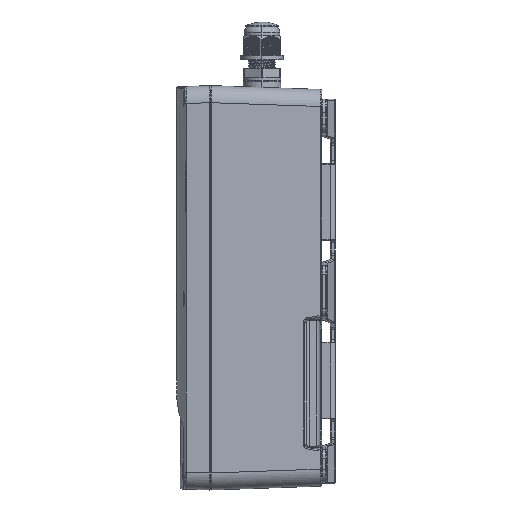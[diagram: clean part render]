
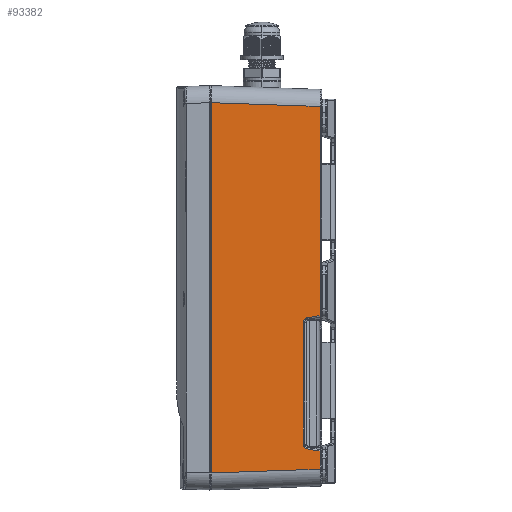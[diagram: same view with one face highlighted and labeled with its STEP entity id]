
A CAD part, left-side view. The second image highlights one B-rep face of the part: STEP entity #93382.
In plain terms, the highlighted planar face has unit normal (-0.999, -0.035, 0).
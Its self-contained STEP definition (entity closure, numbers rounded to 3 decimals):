
#604 = VECTOR ( 'NONE', #66510, 1000. ) ;
#1048 = CARTESIAN_POINT ( 'NONE',  ( -72.5, 0., 105. ) ) ;
#1252 = EDGE_CURVE ( 'NONE', #69270, #138455, #29311, .T. ) ;
#3514 = ORIENTED_EDGE ( 'NONE', *, *, #47024, .T. ) ;
#5276 = ORIENTED_EDGE ( 'NONE', *, *, #52300, .T. ) ;
#5970 = LINE ( 'NONE', #42767, #13464 ) ;
#6317 = CARTESIAN_POINT ( 'NONE',  ( -70.61, -54.125, -36.329 ) ) ;
#8270 = CARTESIAN_POINT ( 'NONE',  ( -70.605, -54.262, -33.103 ) ) ;
#8597 = CARTESIAN_POINT ( 'NONE',  ( -70.264, -64.035, -109.223 ) ) ;
#9302 = CARTESIAN_POINT ( 'NONE',  ( -70.609, -54.156, -33.608 ) ) ;
#10391 = DIRECTION ( 'NONE',  ( 0., 0., 1. ) ) ;
#12443 = CARTESIAN_POINT ( 'NONE',  ( -70.524, -56.574, -107.933 ) ) ;
#12539 = LINE ( 'NONE', #74035, #113401 ) ;
#13072 = EDGE_CURVE ( 'NONE', #138455, #62638, #151007, .T. ) ;
#13202 = ORIENTED_EDGE ( 'NONE', *, *, #1252, .T. ) ;
#13464 = VECTOR ( 'NONE', #126267, 1000. ) ;
#13525 = VECTOR ( 'NONE', #10391, 1000. ) ;
#14150 = DIRECTION ( 'NONE',  ( 0.034, -0.985, 0.17 ) ) ;
#16967 = VECTOR ( 'NONE', #52288, 1000. ) ;
#17762 = CARTESIAN_POINT ( 'NONE',  ( -72.482, -0.517, 94.988 ) ) ;
#19766 = CARTESIAN_POINT ( 'NONE',  ( -70.61, -54.125, -33.951 ) ) ;
#20254 = CARTESIAN_POINT ( 'NONE',  ( -70.599, -54.439, -32.619 ) ) ;
#22292 = ORIENTED_EDGE ( 'NONE', *, *, #78354, .T. ) ;
#24524 = VERTEX_POINT ( 'NONE', #85790 ) ;
#25892 = CARTESIAN_POINT ( 'NONE',  ( -70.605, -54.262, -105.897 ) ) ;
#26380 = CARTESIAN_POINT ( 'NONE',  ( -70.607, -54.217, -105.73 ) ) ;
#28060 = EDGE_CURVE ( 'NONE', #52379, #24524, #5970, .T. ) ;
#29311 = B_SPLINE_CURVE_WITH_KNOTS ( 'NONE', 3,
 ( #81757, #93809, #34765, #118293, #154316, #82795, #94844, #25892, #26380, #84848, #37812, #72841 ),
 .UNSPECIFIED., .F., .F.,
 ( 4, 2, 2, 2, 2, 4 ),
 ( 0., 0.001, 0.002, 0.003, 0.004, 0.004 ),
 .UNSPECIFIED. ) ;
#34765 = CARTESIAN_POINT ( 'NONE',  ( -70.547, -55.915, -107.759 ) ) ;
#35640 = VERTEX_POINT ( 'NONE', #8597 ) ;
#37726 = LINE ( 'NONE', #65990, #604 ) ;
#37812 = CARTESIAN_POINT ( 'NONE',  ( -70.609, -54.139, -105.218 ) ) ;
#42767 = CARTESIAN_POINT ( 'NONE',  ( -72.224, -7.908, -121.73 ) ) ;
#44704 = CARTESIAN_POINT ( 'NONE',  ( -70.547, -55.915, -31.241 ) ) ;
#47024 = EDGE_CURVE ( 'NONE', #24524, #35640, #12539, .T. ) ;
#52288 = DIRECTION ( 'NONE',  ( -0.035, 0.999, 0.035 ) ) ;
#52300 = EDGE_CURVE ( 'NONE', #99308, #56727, #135097, .T. ) ;
#52379 = VERTEX_POINT ( 'NONE', #139614 ) ;
#54688 = VERTEX_POINT ( 'NONE', #17762 ) ;
#55181 = CARTESIAN_POINT ( 'NONE',  ( -70.568, -55.318, -31.582 ) ) ;
#55305 = ORIENTED_EDGE ( 'NONE', *, *, #28060, .T. ) ;
#56087 = CARTESIAN_POINT ( 'NONE',  ( -70.61, -54.125, -33.951 ) ) ;
#56727 = VERTEX_POINT ( 'NONE', #110944 ) ;
#62638 = VERTEX_POINT ( 'NONE', #56087 ) ;
#65062 = CARTESIAN_POINT ( 'NONE',  ( -70.524, -56.574, -31.067 ) ) ;
#65990 = CARTESIAN_POINT ( 'NONE',  ( -72.482, -0.517, -122.006 ) ) ;
#66510 = DIRECTION ( 'NONE',  ( 0., 0., -1. ) ) ;
#69270 = VERTEX_POINT ( 'NONE', #12443 ) ;
#70035 = EDGE_LOOP ( 'NONE', ( #22292, #129771, #55305, #3514, #70395, #13202, #100946, #150742, #5276, #151686 ) ) ;
#70395 = ORIENTED_EDGE ( 'NONE', *, *, #120232, .T. ) ;
#72841 = CARTESIAN_POINT ( 'NONE',  ( -70.61, -54.125, -105.049 ) ) ;
#73518 = B_SPLINE_CURVE_WITH_KNOTS ( 'NONE', 3,
 ( #19766, #91740, #9302, #79696, #8270, #20254, #103733, #151218, #55181, #44704, #90699, #151738 ),
 .UNSPECIFIED., .F., .F.,
 ( 4, 2, 2, 2, 2, 4 ),
 ( 0., 0.001, 0.001, 0.002, 0.003, 0.004 ),
 .UNSPECIFIED. ) ;
#74035 = CARTESIAN_POINT ( 'NONE',  ( -70.264, -64.035, 105. ) ) ;
#74222 = LINE ( 'NONE', #87161, #128311 ) ;
#76263 = VECTOR ( 'NONE', #78252, 1000. ) ;
#78252 = DIRECTION ( 'NONE',  ( 0., 0., 1. ) ) ;
#78354 = EDGE_CURVE ( 'NONE', #134386, #54688, #115876, .T. ) ;
#79036 = CARTESIAN_POINT ( 'NONE',  ( -72.512, 0.348, 95.018 ) ) ;
#79696 = CARTESIAN_POINT ( 'NONE',  ( -70.607, -54.217, -33.27 ) ) ;
#81757 = CARTESIAN_POINT ( 'NONE',  ( -70.524, -56.574, -107.933 ) ) ;
#81797 = CARTESIAN_POINT ( 'NONE',  ( -70.264, -64.035, 105. ) ) ;
#82629 = FACE_OUTER_BOUND ( 'NONE', #70035, .T. ) ;
#82795 = CARTESIAN_POINT ( 'NONE',  ( -70.593, -54.612, -106.676 ) ) ;
#83935 = DIRECTION ( 'NONE',  ( 0.035, -0.999, 0. ) ) ;
#84848 = CARTESIAN_POINT ( 'NONE',  ( -70.609, -54.156, -105.392 ) ) ;
#85790 = CARTESIAN_POINT ( 'NONE',  ( -70.264, -64.035, -119.77 ) ) ;
#87161 = CARTESIAN_POINT ( 'NONE',  ( -70.533, -56.338, -107.892 ) ) ;
#90699 = CARTESIAN_POINT ( 'NONE',  ( -70.536, -56.235, -31.125 ) ) ;
#91740 = CARTESIAN_POINT ( 'NONE',  ( -70.609, -54.139, -33.78 ) ) ;
#93382 = ADVANCED_FACE ( 'NONE', ( #82629 ), #119469, .T. ) ;
#93809 = CARTESIAN_POINT ( 'NONE',  ( -70.536, -56.235, -107.875 ) ) ;
#94844 = CARTESIAN_POINT ( 'NONE',  ( -70.599, -54.439, -106.381 ) ) ;
#99308 = VERTEX_POINT ( 'NONE', #65062 ) ;
#100946 = ORIENTED_EDGE ( 'NONE', *, *, #13072, .T. ) ;
#101447 = EDGE_CURVE ( 'NONE', #62638, #99308, #73518, .T. ) ;
#103733 = CARTESIAN_POINT ( 'NONE',  ( -70.593, -54.612, -32.324 ) ) ;
#107444 = DIRECTION ( 'NONE',  ( -0.999, -0.035, 0. ) ) ;
#110944 = CARTESIAN_POINT ( 'NONE',  ( -70.264, -64.035, -29.777 ) ) ;
#113401 = VECTOR ( 'NONE', #124646, 1000. ) ;
#114297 = EDGE_CURVE ( 'NONE', #54688, #52379, #37726, .T. ) ;
#115876 = LINE ( 'NONE', #79036, #16967 ) ;
#118114 = LINE ( 'NONE', #81797, #13525 ) ;
#118293 = CARTESIAN_POINT ( 'NONE',  ( -70.568, -55.318, -107.418 ) ) ;
#119469 = PLANE ( 'NONE',  #132972 ) ;
#120232 = EDGE_CURVE ( 'NONE', #35640, #69270, #74222, .T. ) ;
#124646 = DIRECTION ( 'NONE',  ( 0., 0., 1. ) ) ;
#126267 = DIRECTION ( 'NONE',  ( 0.035, -0.999, 0.035 ) ) ;
#127573 = VECTOR ( 'NONE', #14150, 1000. ) ;
#128311 = VECTOR ( 'NONE', #134188, 1000. ) ;
#129771 = ORIENTED_EDGE ( 'NONE', *, *, #114297, .T. ) ;
#132599 = CARTESIAN_POINT ( 'NONE',  ( -70.218, -65.342, -29.551 ) ) ;
#132972 = AXIS2_PLACEMENT_3D ( 'NONE', #1048, #107444, #83935 ) ;
#134188 = DIRECTION ( 'NONE',  ( -0.034, 0.985, 0.17 ) ) ;
#134386 = VERTEX_POINT ( 'NONE', #141969 ) ;
#135097 = LINE ( 'NONE', #132599, #127573 ) ;
#138455 = VERTEX_POINT ( 'NONE', #152038 ) ;
#139614 = CARTESIAN_POINT ( 'NONE',  ( -72.482, -0.517, -121.988 ) ) ;
#141969 = CARTESIAN_POINT ( 'NONE',  ( -70.264, -64.035, 92.77 ) ) ;
#150742 = ORIENTED_EDGE ( 'NONE', *, *, #101447, .T. ) ;
#151007 = LINE ( 'NONE', #6317, #76263 ) ;
#151218 = CARTESIAN_POINT ( 'NONE',  ( -70.577, -55.055, -31.8 ) ) ;
#151686 = ORIENTED_EDGE ( 'NONE', *, *, #153339, .T. ) ;
#151738 = CARTESIAN_POINT ( 'NONE',  ( -70.524, -56.574, -31.067 ) ) ;
#152038 = CARTESIAN_POINT ( 'NONE',  ( -70.61, -54.125, -105.049 ) ) ;
#153339 = EDGE_CURVE ( 'NONE', #56727, #134386, #118114, .T. ) ;
#154316 = CARTESIAN_POINT ( 'NONE',  ( -70.577, -55.055, -107.2 ) ) ;
